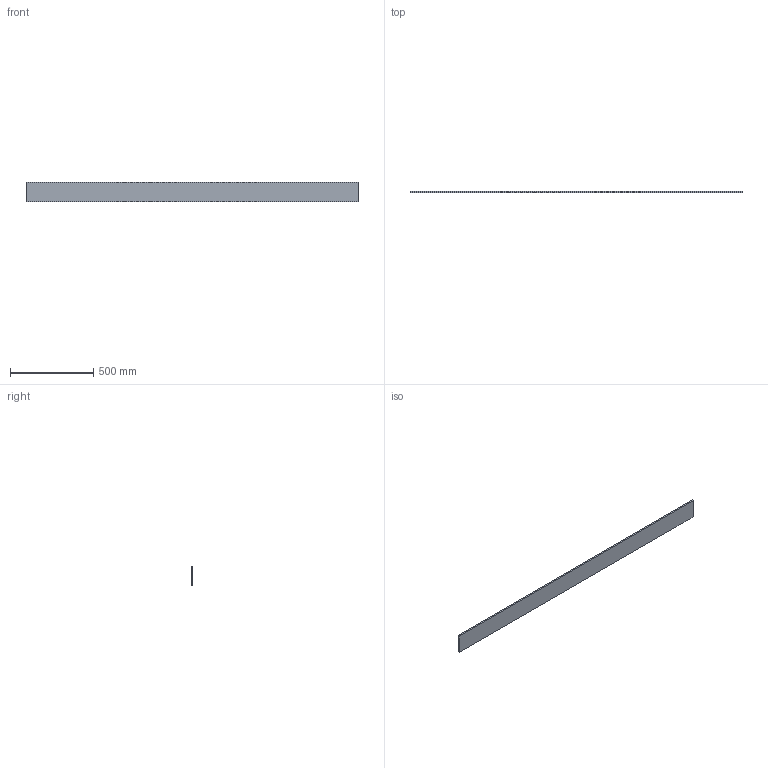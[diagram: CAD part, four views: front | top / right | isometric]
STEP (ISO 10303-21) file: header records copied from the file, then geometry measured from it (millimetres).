
FILE_DESCRIPTION (( 'STEP AP214' ), '1' );
FILE_NAME ('04552.STEP', '2014-03-17T15:14:32', ( '' ), ( '' ), 'SwSTEP 2.0', 'SolidWorks 2013', '' );
FILE_SCHEMA (( 'AUTOMOTIVE_DESIGN' ));
Length unit declared in the file: millimetre
Products named in the file (1): 04552
Bounding box: 2000 x 10 x 120 mm (x, y, z)
Volume: 2400000 mm3; surface area: 522400 mm2
Topology: 1 solids, 1 shells, 6 faces, 12 edges, 8 vertices
Faces by surface type: plane 6
Entity records: 190 total; most frequent: CARTESIAN_POINT 27, DIRECTION 26, ORIENTED_EDGE 24, LINE 12, VECTOR 12, EDGE_CURVE 12, VERTEX_POINT 8, AXIS2_PLACEMENT_3D 7
